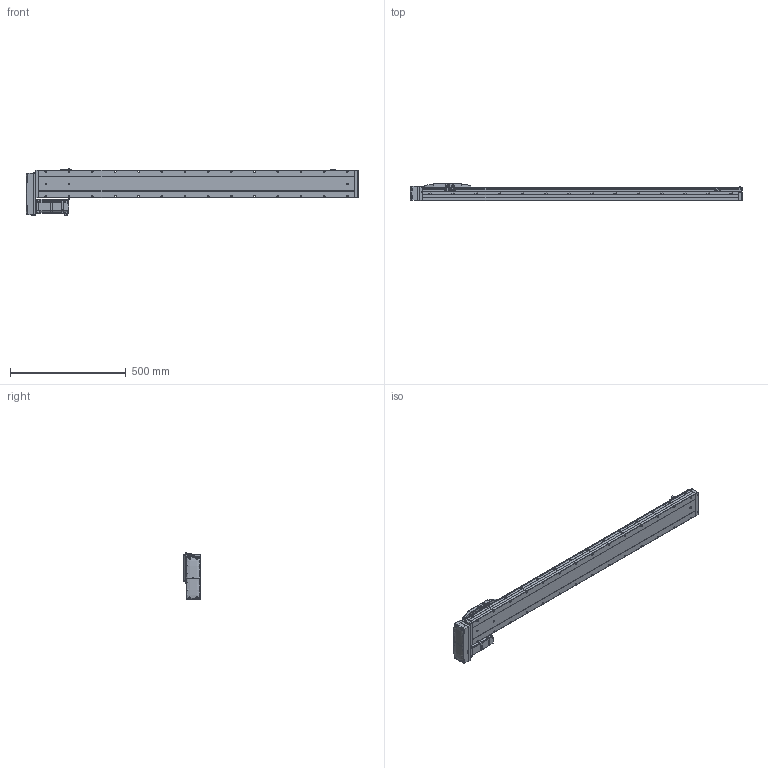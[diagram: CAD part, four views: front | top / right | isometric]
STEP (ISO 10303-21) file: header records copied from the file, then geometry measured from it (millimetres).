
FILE_DESCRIPTION (( 'STEP AP214' ), '1' );
FILE_NAME ('CTH12-L10-S1150-BR-C40（简）.STEP', '2023-02-04T06:58:34', ( '' ), ( '' ), 'SwSTEP 2.0', 'SolidWorks 2018', '' );
FILE_SCHEMA (( 'AUTOMOTIVE_DESIGN' ));
Length unit declared in the file: millimetre
Products named in the file (24): 嫖萇羲壽郪磁1; 内六角圆柱头螺钉M3; CTH12_body_3; 蚐郲; CTH12侧装连接板（标准）简; PM-Y45; 湮賑怢  裔赽-1(CTH12)賑怢; CTH12賑怢ㄗ潠ㄘ; CTH12底座-L1361简（1150行程）; CTH12-L10-S1150-BR-C40（简）; CTH嫖萇羲壽假蚾啣; CTH12-BL_body_4; AC60_Valor predeterminado; M5蹟隊; CTH12覜茼え; CTH12賑怢郪磁; hex nuts, style 1-grades ab gb_GB_FASTENER_NUT_SNAB1 M3-N; CTH12耜蚾裔; 内六角圆柱头螺钉M3-1; CTH400W垫板（3个厚）; 嫖萇羲壽郪磁2; CTH400W假蚾啣; 内六角圆柱头螺钉M3-2; CTH12
Assembly tree (44 placements, depth 4):
  CTH12-L10-S1150-BR-C40（简）
    CTH12底座-L1361简（1150行程）
    蚐郲  x2
    CTH12_body_3
    CTH12-BL_body_4
    CTH12侧装连接板（标准）简
    CTH12耜蚾裔
    CTH12賑怢郪磁
      CTH12
        湮賑怢  裔赽-1(CTH12)賑怢
        CTH12賑怢ㄗ潠ㄘ
    CTH12覜茼え
    嫖萇羲壽郪磁1  x2
      CTH嫖萇羲壽假蚾啣
      PM-Y45
      内六角圆柱头螺钉M3-2
      内六角圆柱头螺钉M3-1
      hex nuts, style 1-grades ab gb_GB_FASTENER_NUT_SNAB1 M3-N
    嫖萇羲壽郪磁2
      CTH嫖萇羲壽假蚾啣
      PM-Y45
      内六角圆柱头螺钉M3-1  x2
      内六角圆柱头螺钉M3-2  x2
      hex nuts, style 1-grades ab gb_GB_FASTENER_NUT_SNAB1 M3-N  x2
    CTH400W垫板（3个厚）
    AC60_Valor predeterminado
    内六角圆柱头螺钉M3  x6
    M5蹟隊  x4
    CTH400W假蚾啣
Bounding box: 1431.5 x 76 x 201.06 mm (x, y, z)
Volume: 9705123.4 mm3; surface area: 827490.4 mm2
Topology: 47 solids, 48 shells, 3014 faces, 7689 edges, 4893 vertices
Faces by surface type: plane 1615, cylinder 834, cone 403, bspline 110, torus 52
Entity records: 88837 total; most frequent: CARTESIAN_POINT 24750, ORIENTED_EDGE 12558, DIRECTION 12234, EDGE_CURVE 6279, AXIS2_PLACEMENT_3D 4160, VERTEX_POINT 3997, VECTOR 3914, LINE 3914
